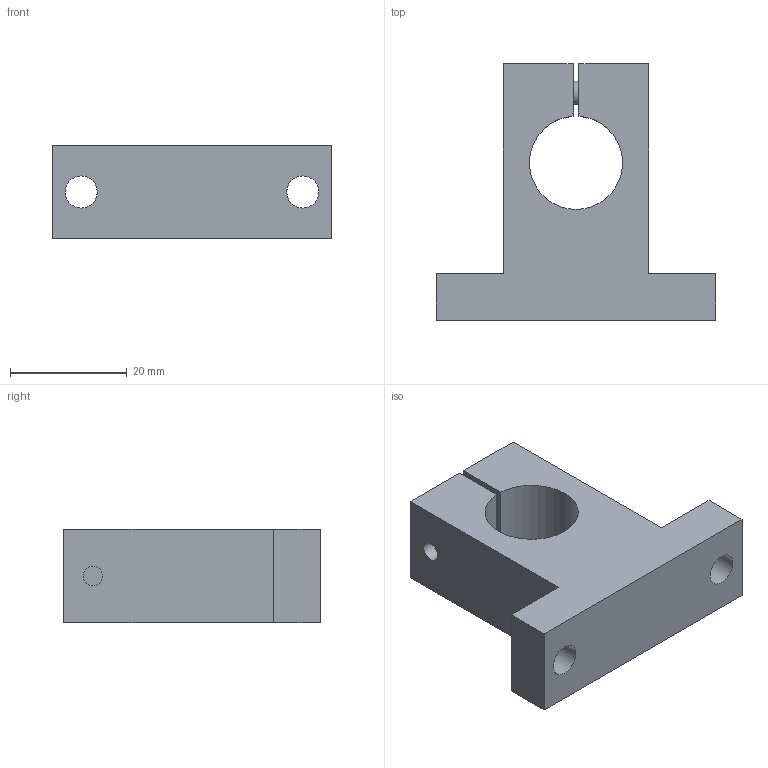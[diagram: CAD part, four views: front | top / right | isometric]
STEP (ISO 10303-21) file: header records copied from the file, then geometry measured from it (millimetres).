
FILE_DESCRIPTION(('STEP AP203'),'1');
FILE_NAME('//192.168.1.1/share/s-4 技術開発/s-4-14_個人別フォルダ/橋詰/09_CAD_DATA/3D/HP用/3Ｄモデル/SN-A/SN-16A.step','2021-09-16T02:44:12',(' '),(' '),'Spatial InterOp 3D',' ',' ');
FILE_SCHEMA(('CONFIG_CONTROL_DESIGN'));
Length unit declared in the file: millimetre
Products named in the file (2): 1; 2
Bounding box: 48 x 44 x 16 mm (x, y, z)
Volume: 16696.8 mm3; surface area: 7011.6 mm2
Topology: 2 solids, 2 shells, 34 faces, 82 edges, 55 vertices
Faces by surface type: plane 24, cylinder 9, cone 1
Full cylindrical faces by diameter (mm): 3.3 x1, 4 x2, 4.5 x1, 5.5 x2, 7 x1, 8 x1
Entity records: 1054 total; most frequent: CARTESIAN_POINT 191, DIRECTION 158, ORIENTED_EDGE 140, EDGE_CURVE 70, EDGE_LOOP 54, AXIS2_PLACEMENT_3D 53, VERTEX_POINT 52, LINE 52
